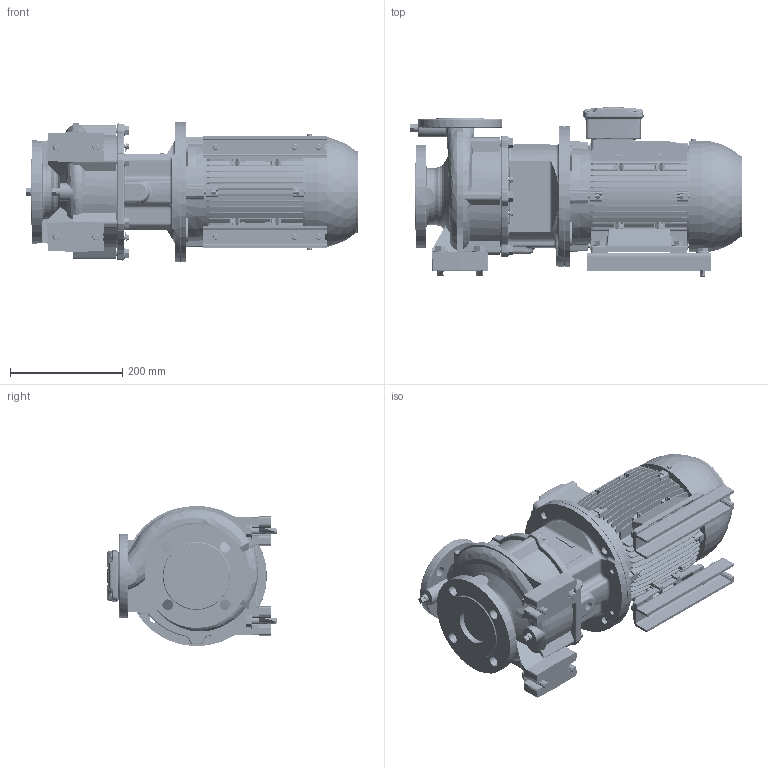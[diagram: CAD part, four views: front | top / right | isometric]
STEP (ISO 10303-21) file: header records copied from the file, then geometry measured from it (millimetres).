
FILE_DESCRIPTION (( 'STEP AP214' ), '1' );
FILE_NAME ('GSD2 40-125_3.0_(100L)_W21.STEP', '2026-07-02T05:16:09', ( '' ), ( '' ), 'SwSTEP 2.0', 'SolidWorks 2024', '' );
FILE_SCHEMA (( 'AUTOMOTIVE_DESIGN' ));
Length unit declared in the file: millimetre
Products named in the file (10): Parametric Flat Washer_M10; Parametric bolt_SFT-A253B; CGS11-5301_2_3_4_5_CGS11-5301; 100L ALIE3_W21T_B35; Parametric bolt_SFT-A259B; 140 x 32 - 271472023; Parametric Flat Washer_M12; 40-125-100L; Parametric bolt_SFT-A305B; GSD2  40-125_3.0_(100L)_W21
Assembly tree (26 placements, depth 2):
  GSD2  40-125_3.0_(100L)_W21
    40-125-100L
    100L ALIE3_W21T_B35
    CGS11-5301_2_3_4_5_CGS11-5301  x2
    140 x 32 - 271472023  x2
    Parametric bolt_SFT-A253B  x4
    Parametric bolt_SFT-A259B  x2
    Parametric bolt_SFT-A305B  x4
    Parametric Flat Washer_M12  x4
    Parametric Flat Washer_M10  x6
Bounding box: 591.3 x 302 x 250 mm (x, y, z)
Volume: 14678324.3 mm3; surface area: 1316894.1 mm2
Topology: 42 solids, 42 shells, 4239 faces, 11175 edges, 7251 vertices
Faces by surface type: plane 2345, cylinder 1135, torus 320, bspline 234, cone 187, sphere 18
Entity records: 183340 total; most frequent: CARTESIAN_POINT 91645, ORIENTED_EDGE 19892, DIRECTION 17692, EDGE_CURVE 9946, VERTEX_POINT 6460, LINE 6200, VECTOR 6200, AXIS2_PLACEMENT_3D 5746
